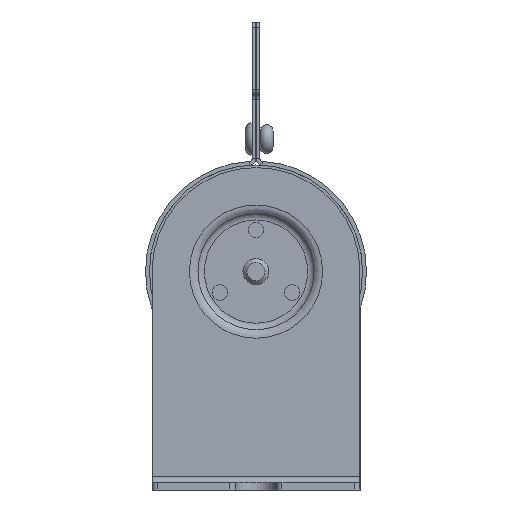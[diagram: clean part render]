
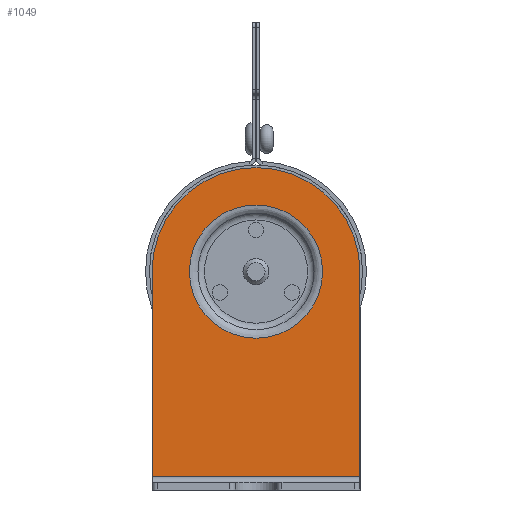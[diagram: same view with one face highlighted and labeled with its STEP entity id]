
A CAD part, left-side view. The second image highlights one B-rep face of the part: STEP entity #1049.
In plain terms, the highlighted planar face has unit normal (-1, 0, 0) as drawn and (1, 0, 0) by its records, which use the part's own axes.
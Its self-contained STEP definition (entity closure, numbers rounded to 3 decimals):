
#1049=ADVANCED_FACE('',(#1885,#1887),#1889,.T.);
#1885=FACE_BOUND('',#1886,.T.);
#1886=EDGE_LOOP('',(#3066,#3067,#3068,#3069));
#1887=FACE_BOUND('',#1888,.T.);
#1888=EDGE_LOOP('',(#3070));
#1889=PLANE('',#1890);
#1890=AXIS2_PLACEMENT_3D('',#1891,#1892,#1893);
#1891=CARTESIAN_POINT('',(1.5,0.,0.));
#1892=DIRECTION('',(1.,0.,0.));
#1893=DIRECTION('',(0.,1.,0.));
#3066=ORIENTED_EDGE('',*,*,#3706,.T.);
#3067=ORIENTED_EDGE('',*,*,#3707,.T.);
#3068=ORIENTED_EDGE('',*,*,#3708,.T.);
#3069=ORIENTED_EDGE('',*,*,#3709,.T.);
#3070=ORIENTED_EDGE('',*,*,#3704,.F.);
#3704=EDGE_CURVE('',#4057,#4057,#4058,.T.);
#3706=EDGE_CURVE('',#4061,#4062,#4063,.T.);
#3707=EDGE_CURVE('',#4062,#4064,#4065,.T.);
#3708=EDGE_CURVE('',#4064,#4066,#4067,.T.);
#3709=EDGE_CURVE('',#4066,#4061,#4068,.T.);
#4057=VERTEX_POINT('',#4677);
#4058=CIRCLE('',#4678,12.806);
#4061=VERTEX_POINT('',#4687);
#4062=VERTEX_POINT('',#4688);
#4063=LINE('',#4689,#4690);
#4064=VERTEX_POINT('',#4692);
#4065=LINE('',#4693,#4694);
#4066=VERTEX_POINT('',#4696);
#4067=CIRCLE('',#4697,20.);
#4068=LINE('',#4701,#4702);
#4677=CARTESIAN_POINT('',(1.5,12.806,11.));
#4678=AXIS2_PLACEMENT_3D('',#4679,#4680,#4681);
#4679=CARTESIAN_POINT('',(1.5,0.,11.));
#4680=DIRECTION('',(1.,0.,0.));
#4681=DIRECTION('',(0.,1.,0.));
#4687=CARTESIAN_POINT('',(1.5,-20.,-28.5));
#4688=CARTESIAN_POINT('',(1.5,20.,-28.5));
#4689=CARTESIAN_POINT('',(1.5,-20.,-28.5));
#4690=VECTOR('',#4691,1.);
#4691=DIRECTION('',(0.,1.,0.));
#4692=CARTESIAN_POINT('',(1.5,20.,11.));
#4693=CARTESIAN_POINT('',(1.5,20.,-28.5));
#4694=VECTOR('',#4695,1.);
#4695=DIRECTION('',(0.,0.,1.));
#4696=CARTESIAN_POINT('',(1.5,-20.,11.));
#4697=AXIS2_PLACEMENT_3D('',#4698,#4699,#4700);
#4698=CARTESIAN_POINT('',(1.5,0.,11.));
#4699=DIRECTION('',(1.,0.,0.));
#4700=DIRECTION('',(0.,1.,0.));
#4701=CARTESIAN_POINT('',(1.5,-20.,11.));
#4702=VECTOR('',#4703,1.);
#4703=DIRECTION('',(0.,0.,-1.));
